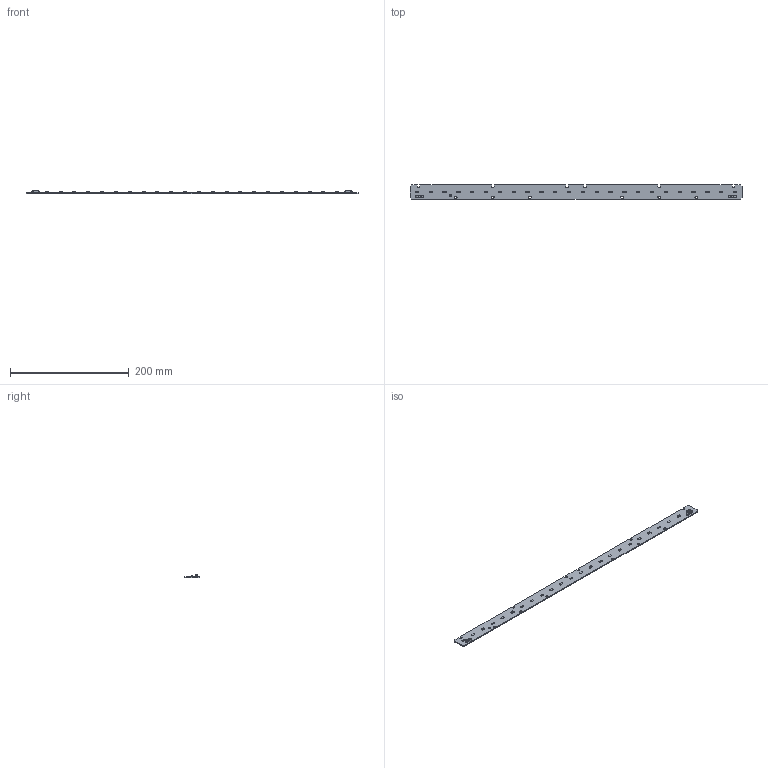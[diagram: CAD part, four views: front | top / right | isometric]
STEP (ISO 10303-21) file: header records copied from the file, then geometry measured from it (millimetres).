
FILE_DESCRIPTION((''),'2;1');
FILE_NAME('16206871_LLE-G4_24X560_1300LM','2016-07-01T',('bernhard.fink'),(''),'PRO/ENGINEER BY PARAMETRIC TECHNOLOGY CORPORATION, 2015200','PRO/ENGINEER BY PARAMETRIC TECHNOLOGY CORPORATION, 2015200','');
FILE_SCHEMA(('AUTOMOTIVE_DESIGN { 1 0 10303 214 1 1 1 1 }'));
Products named in the file (1): 16206871_LLE-G4_24X560_1300LM
Bounding box: 559 x 23.6 x 5.1 mm (x, y, z)
Volume: 21991.6 mm3; surface area: 28834.2 mm2
Topology: 1 solids, 1 shells, 1448 faces, 3964 edges, 2542 vertices
Faces by surface type: plane 798, cylinder 452, bspline 116, cone 34, revolution 24, torus 12, sphere 12
Entity records: 71454 total; most frequent: CARTESIAN_POINT 15086, ORIENTED_EDGE 7856, DIRECTION 6564, PRESENTATION_STYLE_ASSIGNMENT 5209, STYLED_ITEM 3953, CURVE_STYLE 3952, EDGE_CURVE 3928, VECTOR 2556
